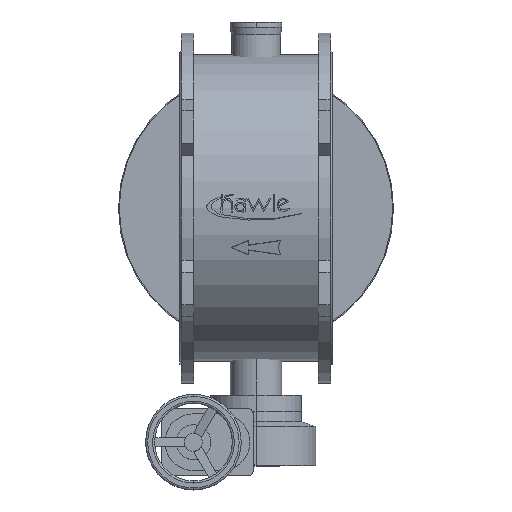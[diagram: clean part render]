
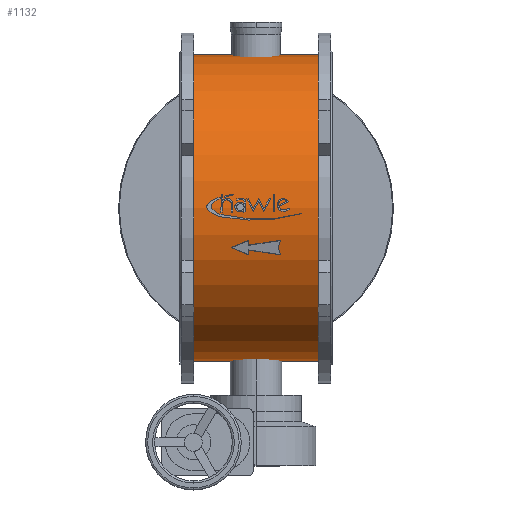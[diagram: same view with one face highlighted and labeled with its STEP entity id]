
A CAD part, top view. The second image highlights one B-rep face of the part: STEP entity #1132.
In plain terms, the highlighted cylindrical face has radius 593 mm (diameter 1186 mm), a partial arc.
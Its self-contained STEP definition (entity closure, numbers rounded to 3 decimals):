
#1132=ADVANCED_FACE('',(#2468),#2469,.T.);
#2468=FACE_OUTER_BOUND('',#4522,.T.);
#2469=CYLINDRICAL_SURFACE('',#4523,593.0);
#4522=EDGE_LOOP('',(#6461,#6462,#6463,#6464));
#4523=AXIS2_PLACEMENT_3D('',#6465,#6466,#6467);
#6461=ORIENTED_EDGE('',*,*,#10823,.T.);
#6462=ORIENTED_EDGE('',*,*,#10824,.T.);
#6463=ORIENTED_EDGE('',*,*,#10825,.T.);
#6464=ORIENTED_EDGE('',*,*,#10826,.T.);
#6465=CARTESIAN_POINT('',(-536.5,0.,0.0));
#6466=DIRECTION('',(1.0,0.,0.0));
#6467=DIRECTION('',(0.,-1.0,0.0));
#10823=EDGE_CURVE('',#12744,#12745,#12746,.T.);
#10824=EDGE_CURVE('',#12745,#12747,#12748,.T.);
#10825=EDGE_CURVE('',#12747,#12749,#12750,.T.);
#10826=EDGE_CURVE('',#12749,#12744,#12751,.T.);
#12744=VERTEX_POINT('',#15387);
#12745=VERTEX_POINT('',#15388);
#12746=LINE('',#15389,#15390);
#12747=VERTEX_POINT('',#15391);
#12748=CIRCLE('',#15392,593.0);
#12749=VERTEX_POINT('',#15393);
#12750=LINE('',#15394,#15395);
#12751=CIRCLE('',#15396,593.0);
#15387=CARTESIAN_POINT('',(-536.5,-593.0,0.0));
#15388=CARTESIAN_POINT('',(-53.5,-593.0,0.0));
#15389=CARTESIAN_POINT('',(-536.5,-593.0,0.));
#15390=VECTOR('',#18424,1.0);
#15391=CARTESIAN_POINT('',(-53.5,593.0,0.));
#15392=AXIS2_PLACEMENT_3D('',#18425,#18426,#18427);
#15393=CARTESIAN_POINT('',(-536.5,593.0,0.));
#15394=CARTESIAN_POINT('',(-536.5,593.0,0.));
#15395=VECTOR('',#18428,1.0);
#15396=AXIS2_PLACEMENT_3D('',#18429,#18430,#18431);
#18424=DIRECTION('',(1.0,0.,0.0));
#18425=CARTESIAN_POINT('',(-53.5,0.,0.0));
#18426=DIRECTION('',(-1.0,0.,0.0));
#18427=DIRECTION('',(0.,-1.0,0.0));
#18428=DIRECTION('',(-1.0,0.,-0.0));
#18429=CARTESIAN_POINT('',(-536.5,0.,0.0));
#18430=DIRECTION('',(1.0,0.,0.0));
#18431=DIRECTION('',(0.,-1.0,0.0));
